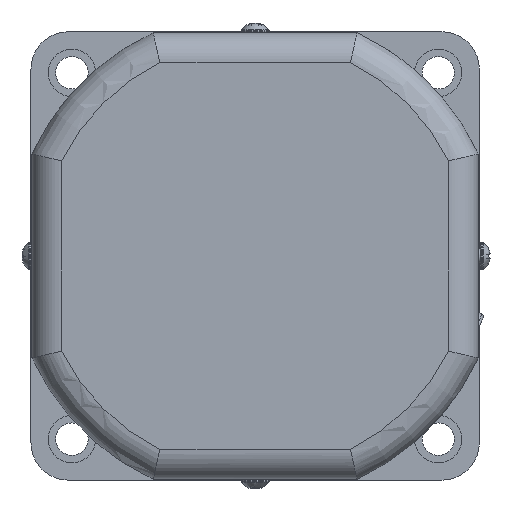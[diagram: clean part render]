
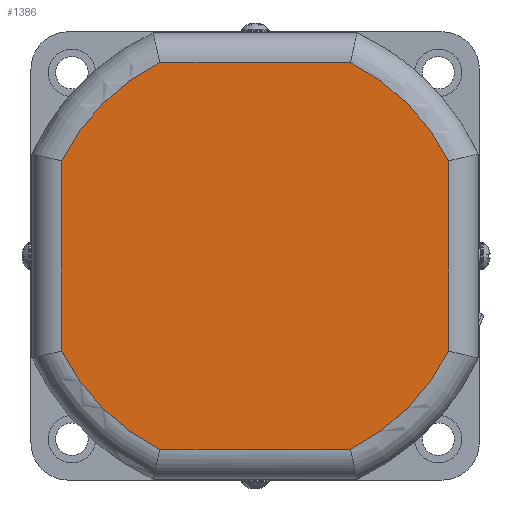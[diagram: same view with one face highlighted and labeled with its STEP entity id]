
A CAD part, left-side view. The second image highlights one B-rep face of the part: STEP entity #1386.
In plain terms, the highlighted planar face has unit normal (-1, 0, 0).
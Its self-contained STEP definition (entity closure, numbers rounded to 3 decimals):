
#849=CARTESIAN_POINT('',(-23.,-38.8,19.108));
#850=VERTEX_POINT('',#849);
#875=CARTESIAN_POINT('',(-23.,-19.108,38.8));
#876=VERTEX_POINT('',#875);
#894=CARTESIAN_POINT('',(-23.,0.,0.));
#895=DIRECTION('',(1.0,0.,0.));
#896=DIRECTION('',(0.,-0.707,0.707));
#897=AXIS2_PLACEMENT_3D('',#894,#895,#896);
#898=CIRCLE('',#897,43.25);
#899=EDGE_CURVE('',#876,#850,#898,.T.);
#909=CARTESIAN_POINT('',(-23.,19.108,38.8));
#910=VERTEX_POINT('',#909);
#928=CARTESIAN_POINT('',(-23.,19.108,38.8));
#929=DIRECTION('',(0.0,-1.0,0.0));
#930=VECTOR('',#929,38.216);
#931=LINE('',#928,#930);
#932=EDGE_CURVE('',#910,#876,#931,.T.);
#946=CARTESIAN_POINT('',(-23.,-38.8,-19.108));
#947=VERTEX_POINT('',#946);
#972=CARTESIAN_POINT('',(-23.,-38.8,19.108));
#973=DIRECTION('',(0.0,0.0,-1.0));
#974=VECTOR('',#973,38.216);
#975=LINE('',#972,#974);
#976=EDGE_CURVE('',#850,#947,#975,.T.);
#988=CARTESIAN_POINT('',(-23.,38.8,19.108));
#989=VERTEX_POINT('',#988);
#1007=CARTESIAN_POINT('',(-23.,0.,0.));
#1008=DIRECTION('',(1.0,0.,0.));
#1009=DIRECTION('',(0.,0.707,0.707));
#1010=AXIS2_PLACEMENT_3D('',#1007,#1008,#1009);
#1011=CIRCLE('',#1010,43.25);
#1012=EDGE_CURVE('',#989,#910,#1011,.T.);
#1032=CARTESIAN_POINT('',(-23.,-19.108,-38.8));
#1033=VERTEX_POINT('',#1032);
#1059=CARTESIAN_POINT('',(-23.,0.,0.));
#1060=DIRECTION('',(1.0,0.,0.));
#1061=DIRECTION('',(0.,-0.707,-0.707));
#1062=AXIS2_PLACEMENT_3D('',#1059,#1060,#1061);
#1063=CIRCLE('',#1062,43.25);
#1064=EDGE_CURVE('',#947,#1033,#1063,.T.);
#1076=CARTESIAN_POINT('',(-23.,38.8,-19.108));
#1077=VERTEX_POINT('',#1076);
#1095=CARTESIAN_POINT('',(-23.,38.8,-19.108));
#1096=DIRECTION('',(0.0,0.0,1.0));
#1097=VECTOR('',#1096,38.216);
#1098=LINE('',#1095,#1097);
#1099=EDGE_CURVE('',#1077,#989,#1098,.T.);
#1116=CARTESIAN_POINT('',(-23.,19.108,-38.8));
#1117=VERTEX_POINT('',#1116);
#1144=CARTESIAN_POINT('',(-23.,-19.108,-38.8));
#1145=DIRECTION('',(0.0,1.0,0.0));
#1146=VECTOR('',#1145,38.216);
#1147=LINE('',#1144,#1146);
#1148=EDGE_CURVE('',#1033,#1117,#1147,.T.);
#1159=CARTESIAN_POINT('',(-23.,0.,0.));
#1160=DIRECTION('',(1.,0.,0.));
#1161=DIRECTION('',(0.,0.707,-0.707));
#1162=AXIS2_PLACEMENT_3D('',#1159,#1160,#1161);
#1163=CIRCLE('',#1162,43.25);
#1164=EDGE_CURVE('',#1117,#1077,#1163,.T.);
#1371=CARTESIAN_POINT('',(-23.,0.,0.));
#1372=DIRECTION('',(1.0,0.0,0.0));
#1373=DIRECTION('',(0.0,-1.0,0.0));
#1374=AXIS2_PLACEMENT_3D('',#1371,#1372,#1373);
#1375=PLANE('',#1374);
#1376=ORIENTED_EDGE('',*,*,#1148,.F.);
#1377=ORIENTED_EDGE('',*,*,#1064,.F.);
#1378=ORIENTED_EDGE('',*,*,#976,.F.);
#1379=ORIENTED_EDGE('',*,*,#899,.F.);
#1380=ORIENTED_EDGE('',*,*,#932,.F.);
#1381=ORIENTED_EDGE('',*,*,#1012,.F.);
#1382=ORIENTED_EDGE('',*,*,#1099,.F.);
#1383=ORIENTED_EDGE('',*,*,#1164,.F.);
#1384=EDGE_LOOP('',(#1376,#1377,#1378,#1379,#1380,#1381,#1382,#1383));
#1385=FACE_OUTER_BOUND('',#1384,.T.);
#1386=ADVANCED_FACE('',(#1385),#1375,.F.);
